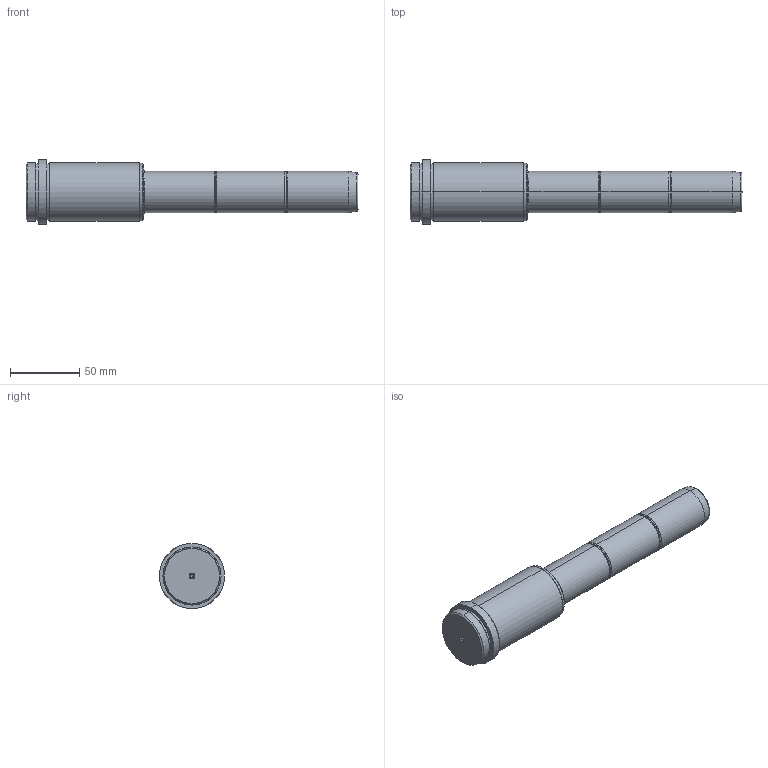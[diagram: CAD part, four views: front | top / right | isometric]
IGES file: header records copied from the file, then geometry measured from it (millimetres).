
Start section: SolidWorks IGES FILE using analytic representation for surfaces
Global section: file name: D:\zzzzz\Delta\D03\30\D03 - 30x76x155.IGS; native system: SolidWorks 2004 by SolidWorks Corporation; preprocessor: Version 5.3; author: Hkn; date: 080327.163455; units: millimetre
Bounding box: 240 x 47 x 47 mm (x, y, z)
Surface area: 29381.3 mm2 (no closed solid volume)
Topology: 0 solids, 0 shells, 56 faces, 1120 edges, 1116 vertices
Faces by surface type: revolution 36, bspline 20
